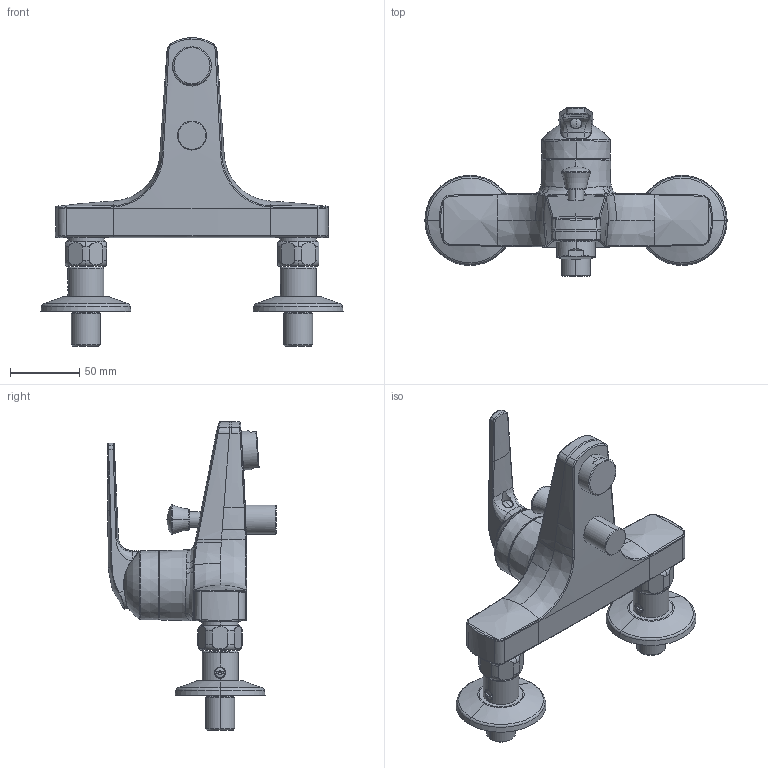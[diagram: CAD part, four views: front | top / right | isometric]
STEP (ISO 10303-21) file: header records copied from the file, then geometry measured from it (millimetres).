
FILE_DESCRIPTION((''),'2;1');
FILE_NAME('20062313','2012-11-26T',('laf'),(''),'PRO/ENGINEER BY PARAMETRIC TECHNOLOGY CORPORATION, 2011080','PRO/ENGINEER BY PARAMETRIC TECHNOLOGY CORPORATION, 2011080','');
FILE_SCHEMA(('AUTOMOTIVE_DESIGN_CC2 { 1 2 10303 214 -1 1 5 2 }'));
Length unit declared in the file: millimetre
Products named in the file (1): 20062313
Bounding box: 218 x 121.3 x 222.41 mm (x, y, z)
Volume: 332393.6 mm3; surface area: 157114.5 mm2
Topology: 4 solids, 7 shells, 1878 faces, 4282 edges, 2464 vertices
Faces by surface type: bspline 724, cylinder 414, plane 298, torus 170, cone 163, sphere 109
Entity records: 115045 total; most frequent: CARTESIAN_POINT 56839, ORIENTED_EDGE 8540, DIRECTION 6699, EDGE_CURVE 4270, FILL_AREA_STYLE_COLOUR 3474, FILL_AREA_STYLE 3474, SURFACE_STYLE_FILL_AREA 3474, SURFACE_SIDE_STYLE 3474
